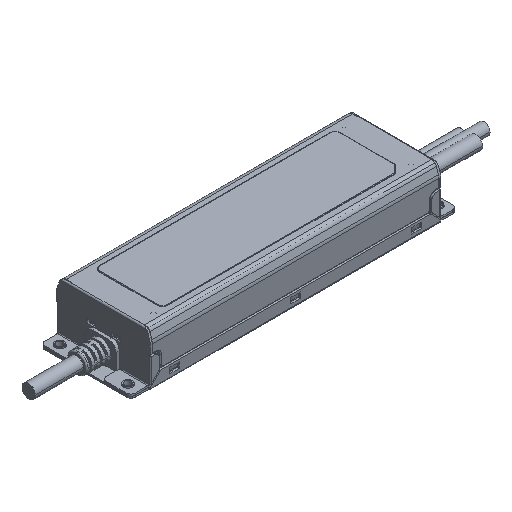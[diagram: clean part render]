
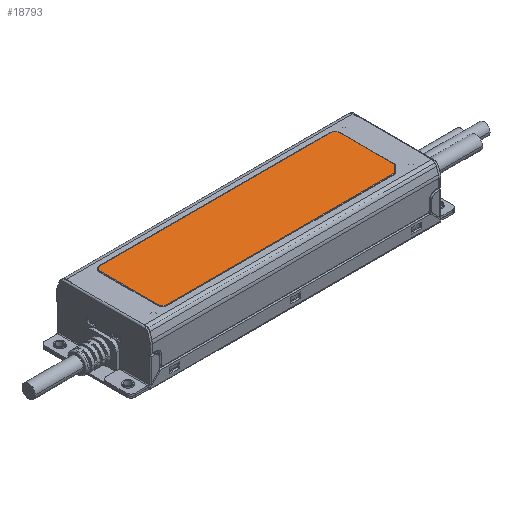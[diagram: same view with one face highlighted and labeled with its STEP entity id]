
A CAD part, isometric view. The second image highlights one B-rep face of the part: STEP entity #18793.
In plain terms, the highlighted planar face has unit normal (0, 0, 1).
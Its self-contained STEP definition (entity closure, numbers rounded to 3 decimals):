
#9746=CARTESIAN_POINT('',(24.555,18.048,34.3));
#9747=DIRECTION('',(0.,0.,1.));
#9748=DIRECTION('',(-1.,0.,0.));
#9749=AXIS2_PLACEMENT_3D('',#9746,#9747,#9748);
#9754=CARTESIAN_POINT('',(24.555,56.548,34.3));
#9755=DIRECTION('',(0.,0.,1.));
#9756=DIRECTION('',(0.,1.,0.));
#9757=AXIS2_PLACEMENT_3D('',#9754,#9755,#9756);
#9762=CARTESIAN_POINT('',(179.055,56.548,34.3));
#9763=DIRECTION('',(0.,0.,1.));
#9764=DIRECTION('',(1.,0.,0.));
#9765=AXIS2_PLACEMENT_3D('',#9762,#9763,#9764);
#9770=DIRECTION('',(0.707,0.707,0.));
#9771=VECTOR('',#9770,6.905);
#9772=CARTESIAN_POINT('',(177.472,14.748,34.3));
#9773=LINE('',#9772,#9771);
#9777=DIRECTION('',(-1.,0.,0.));
#9778=VECTOR('',#9777,152.917);
#9779=CARTESIAN_POINT('',(177.472,14.748,34.3));
#9780=LINE('',#9779,#9778);
#9836=DIRECTION('',(0.,1.,0.));
#9837=VECTOR('',#9836,38.5);
#9838=CARTESIAN_POINT('',(21.255,18.048,34.3));
#9839=LINE('',#9838,#9837);
#9933=DIRECTION('',(0.,-1.,0.));
#9934=VECTOR('',#9933,36.917);
#9935=CARTESIAN_POINT('',(182.355,56.548,34.3));
#9936=LINE('',#9935,#9934);
#9992=DIRECTION('',(1.,0.,0.));
#9993=VECTOR('',#9992,154.5);
#9994=CARTESIAN_POINT('',(24.555,59.848,34.3));
#9995=LINE('',#9994,#9993);
#13651=CARTESIAN_POINT('',(21.255,18.048,34.3));
#13652=CARTESIAN_POINT('',(24.555,14.748,34.3));
#13653=VERTEX_POINT('',#13651);
#13654=VERTEX_POINT('',#13652);
#13655=CARTESIAN_POINT('',(21.255,56.548,34.3));
#13656=VERTEX_POINT('',#13655);
#13657=CARTESIAN_POINT('',(24.555,59.848,34.3));
#13658=VERTEX_POINT('',#13657);
#13659=CARTESIAN_POINT('',(179.055,59.848,34.3));
#13660=VERTEX_POINT('',#13659);
#13661=CARTESIAN_POINT('',(182.355,56.548,34.3));
#13662=VERTEX_POINT('',#13661);
#13663=CARTESIAN_POINT('',(182.355,19.631,34.3));
#13664=VERTEX_POINT('',#13663);
#13665=CARTESIAN_POINT('',(177.472,14.748,34.3));
#13666=VERTEX_POINT('',#13665);
#18771=CARTESIAN_POINT('',(149.066,46.025,34.3));
#18772=DIRECTION('',(0.,0.,1.));
#18773=DIRECTION('',(1.,0.,0.));
#18774=AXIS2_PLACEMENT_3D('',#18771,#18772,#18773);
#18775=PLANE('',#18774);
#18777=ORIENTED_EDGE('',*,*,#18776,.T.);
#18779=ORIENTED_EDGE('',*,*,#18778,.F.);
#18781=ORIENTED_EDGE('',*,*,#18780,.T.);
#18783=ORIENTED_EDGE('',*,*,#18782,.F.);
#18785=ORIENTED_EDGE('',*,*,#18784,.T.);
#18787=ORIENTED_EDGE('',*,*,#18786,.F.);
#18789=ORIENTED_EDGE('',*,*,#18788,.T.);
#18790=ORIENTED_EDGE('',*,*,#18762,.F.);
#18791=EDGE_LOOP('',(#18777,#18779,#18781,#18783,#18785,#18787,#18789,#18790));
#18792=FACE_OUTER_BOUND('',#18791,.F.);
#9750=CIRCLE('',#9749,3.3);
#9758=CIRCLE('',#9757,3.3);
#9766=CIRCLE('',#9765,3.3);
#18762=EDGE_CURVE('',#13666,#13664,#9773,.T.);
#18776=EDGE_CURVE('',#13666,#13654,#9780,.T.);
#18778=EDGE_CURVE('',#13653,#13654,#9750,.T.);
#18780=EDGE_CURVE('',#13653,#13656,#9839,.T.);
#18782=EDGE_CURVE('',#13658,#13656,#9758,.T.);
#18784=EDGE_CURVE('',#13658,#13660,#9995,.T.);
#18786=EDGE_CURVE('',#13662,#13660,#9766,.T.);
#18788=EDGE_CURVE('',#13662,#13664,#9936,.T.);
#18793=ADVANCED_FACE('',(#18792),#18775,.T.);
